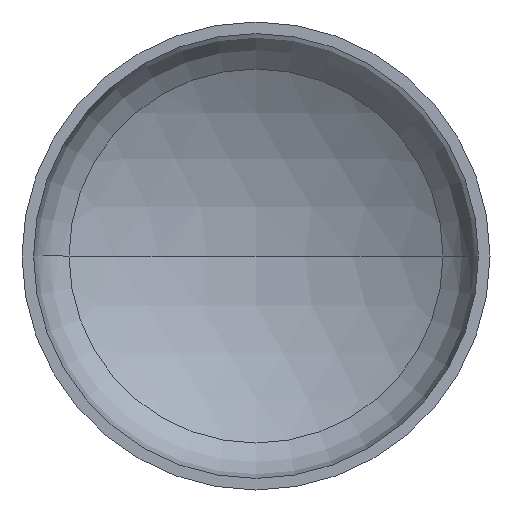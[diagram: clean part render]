
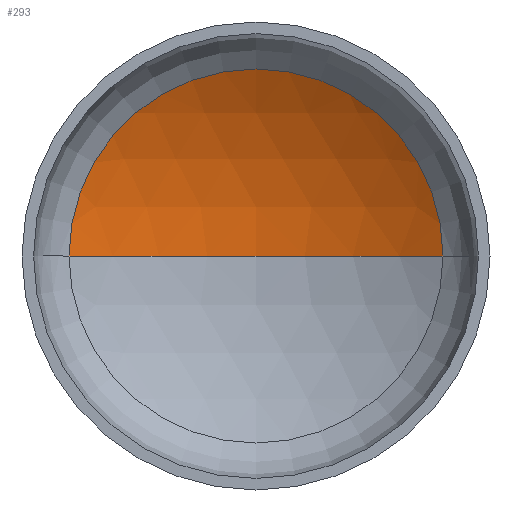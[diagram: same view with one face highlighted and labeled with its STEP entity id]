
A CAD part, front view. The second image highlights one B-rep face of the part: STEP entity #293.
In plain terms, the highlighted spherical face has radius 254 mm.
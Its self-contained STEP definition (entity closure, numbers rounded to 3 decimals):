
#1 = CARTESIAN_POINT ( 'NONE',  ( 0., 68.022, 0. ) ) ;
#2 = ORIENTED_EDGE ( 'NONE', *, *, #232, .F. ) ;
#7 = EDGE_LOOP ( 'NONE', ( #2, #69, #80 ) ) ;
#9 = VERTEX_POINT ( 'NONE', #229 ) ;
#23 = CARTESIAN_POINT ( 'NONE',  ( 0., -150.529, 0. ) ) ;
#27 = VERTEX_POINT ( 'NONE', #219 ) ;
#54 = DIRECTION ( 'NONE',  ( 1., 0., 0. ) ) ;
#66 = DIRECTION ( 'NONE',  ( 0., 0., 1. ) ) ;
#69 = ORIENTED_EDGE ( 'NONE', *, *, #214, .T. ) ;
#74 = AXIS2_PLACEMENT_3D ( 'NONE', #1, #373, #108 ) ;
#80 = ORIENTED_EDGE ( 'NONE', *, *, #178, .T. ) ;
#108 = DIRECTION ( 'NONE',  ( 1., 0., 0. ) ) ;
#149 = DIRECTION ( 'NONE',  ( -1., 0., 0. ) ) ;
#150 = AXIS2_PLACEMENT_3D ( 'NONE', #199, #247, #243 ) ;
#172 = SPHERICAL_SURFACE ( 'NONE', #327, 254. ) ;
#178 = EDGE_CURVE ( 'NONE', #9, #241, #269, .T. ) ;
#180 = FACE_OUTER_BOUND ( 'NONE', #7, .T. ) ;
#199 = CARTESIAN_POINT ( 'NONE',  ( 0., -150.529, 0. ) ) ;
#214 = EDGE_CURVE ( 'NONE', #27, #9, #395, .T. ) ;
#219 = CARTESIAN_POINT ( 'NONE',  ( 0., 103.471, 0. ) ) ;
#222 = AXIS2_PLACEMENT_3D ( 'NONE', #23, #66, #54 ) ;
#229 = CARTESIAN_POINT ( 'NONE',  ( 129.428, 68.022, 0. ) ) ;
#232 = EDGE_CURVE ( 'NONE', #27, #241, #260, .T. ) ;
#241 = VERTEX_POINT ( 'NONE', #265 ) ;
#243 = DIRECTION ( 'NONE',  ( -1., 0., 0. ) ) ;
#247 = DIRECTION ( 'NONE',  ( 0., 0., -1. ) ) ;
#260 = CIRCLE ( 'NONE', #222, 254. ) ;
#265 = CARTESIAN_POINT ( 'NONE',  ( -129.428, 68.022, 0. ) ) ;
#269 = CIRCLE ( 'NONE', #74, 129.428 ) ;
#271 = CARTESIAN_POINT ( 'NONE',  ( 0., -150.529, 0. ) ) ;
#273 = DIRECTION ( 'NONE',  ( 0., 0., -1. ) ) ;
#293 = ADVANCED_FACE ( 'NONE', ( #180 ), #172, .F. ) ;
#327 = AXIS2_PLACEMENT_3D ( 'NONE', #271, #273, #149 ) ;
#373 = DIRECTION ( 'NONE',  ( 0., -1., 0. ) ) ;
#395 = CIRCLE ( 'NONE', #150, 254. ) ;
